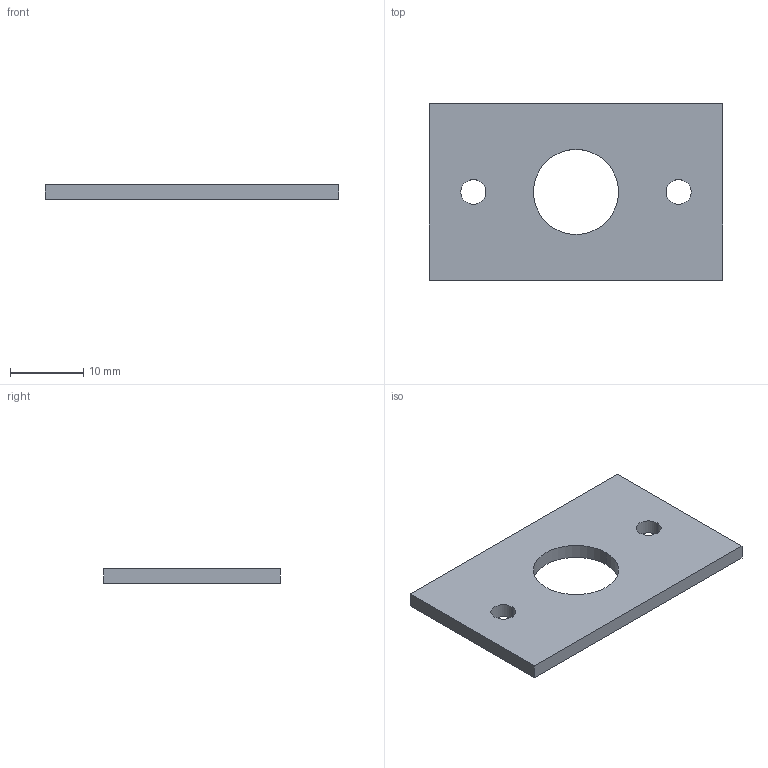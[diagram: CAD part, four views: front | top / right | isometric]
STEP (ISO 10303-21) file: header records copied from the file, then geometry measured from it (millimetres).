
FILE_DESCRIPTION (( 'STEP AP203' ), '1' );
FILE_NAME ('V2_03_bearing_retainer.STEP', '2026-09-18T10:17:09', ( '15300530775@163.com' ), ( '' ), 'SwSTEP 2.0', 'SolidWorks 2026', '' );
FILE_SCHEMA (( 'CONFIG_CONTROL_DESIGN' ));
Length unit declared in the file: millimetre
Products named in the file (1): V2_03_bearing_retainer
Bounding box: 40 x 24 x 2 mm (x, y, z)
Volume: 1672.3 mm3; surface area: 2043.9 mm2
Topology: 1 solids, 1 shells, 12 faces, 30 edges, 20 vertices
Faces by surface type: cylinder 6, plane 6
Entity records: 455 total; most frequent: DIRECTION 68, CARTESIAN_POINT 63, ORIENTED_EDGE 60, EDGE_CURVE 30, AXIS2_PLACEMENT_3D 25, VERTEX_POINT 20, VECTOR 18, LINE 18
